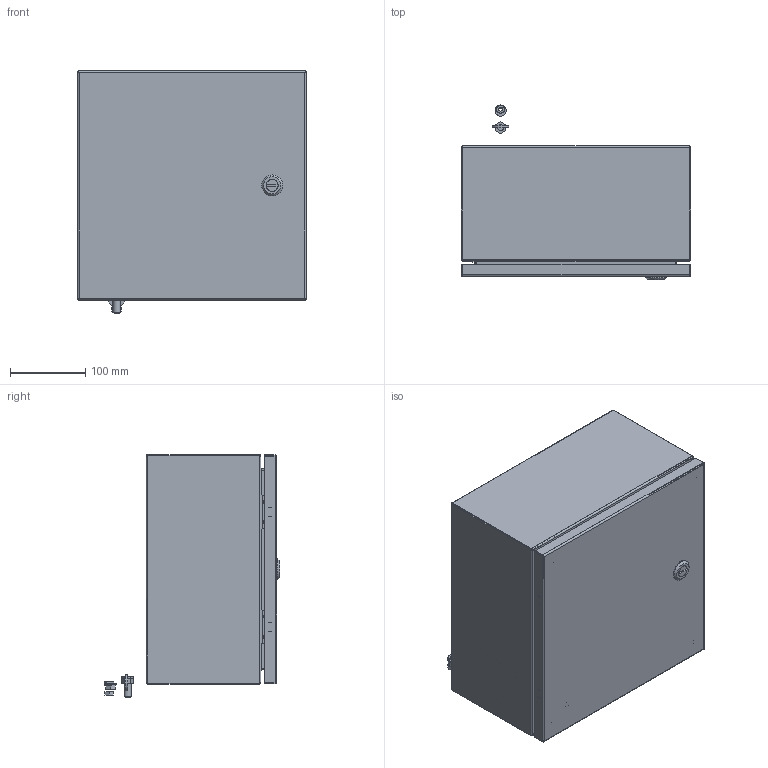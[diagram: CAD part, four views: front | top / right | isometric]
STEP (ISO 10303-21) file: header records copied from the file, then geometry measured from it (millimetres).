
FILE_DESCRIPTION(/* description */ ('Unknown'),/* implementation_level */ '2;1');
FILE_NAME(/* name */ 'EN4SD12126S16',/* time_stamp */ '2023-03-22T09:27:02-04:00',/* author */ ('Unknown'),/* organization */ ('Unknown'),/* preprocessor_version */ 'ST-DEVELOPER v18.102',/* originating_system */ 'Solid Edge',/* authorisation */ 'Unknown');
FILE_SCHEMA (('AUTOMOTIVE_DESIGN {1 0 10303 214 3 1 1}'));
Length unit declared in the file: millimetre
Products named in the file (27): EN4SD12126S16; COM54211-1; COM70219_oa_0; HNG14580-2; STD26258; LOK10007; LOK10007_NUT; LOK10007_INSERT; LOK10007_SCREW; LOK10007_CAM; KIT90720; SCC19418; BUL10136; NTS18091; WAM30022; NTS18006; NTS16536; NTS16694; PIN17645; QLB20184; COM54206-1; HNG14580-1; std26107; CAP02342; BUL10020
Assembly tree (34 placements, depth 3):
  EN4SD12126S16
    COM54211-1
      COM70219_oa_0
      HNG14580-2  x2
      STD26258
      COM54211-1
    LOK10007
      LOK10007_NUT
      LOK10007_INSERT
      LOK10007_SCREW
      LOK10007_CAM
      LOK10007
    KIT90720
      SCC19418
      BUL10136
      NTS18091
      WAM30022
      NTS18006
      NTS16536
      NTS16694
    PIN17645  x2
    QLB20184
    COM54206-1
    HNG14580-1  x2
    std26107  x4
    STD26258
    CAP02342  x2
    BUL10020
Bounding box: 304.8 x 232.98 x 322.4 mm (x, y, z)
Volume: 718740.8 mm3; surface area: 954252.8 mm2
Topology: 29 solids, 30 shells, 821 faces, 1947 edges, 1227 vertices
Faces by surface type: plane 432, cylinder 169, bspline 154, torus 44, cone 22
Full cylindrical faces by diameter (mm): 4.369 x2, 4.976 x1, 5 x1, 5.105 x1, 5.74 x2, 6 x1, 6.096 x2, 6.35 x2, 6.411 x1, 6.985 x4, 7.417 x2, 7.805 x1, 7.938 x6, 9.144 x1, 9.525 x1, 9.83 x2, 10.109 x6, 12.065 x4, 12.7 x6, 13.335 x1, 14.732 x1, 15.875 x5, 16.002 x1, 19.5 x1, 19.939 x1, 22.225 x1, 27.94 x1
Entity records: 22372 total; most frequent: CARTESIAN_POINT 6430, ORIENTED_EDGE 3266, DIRECTION 2761, EDGE_CURVE 1633, VERTEX_POINT 1065, LINE 1013, VECTOR 1013, AXIS2_PLACEMENT_3D 874
